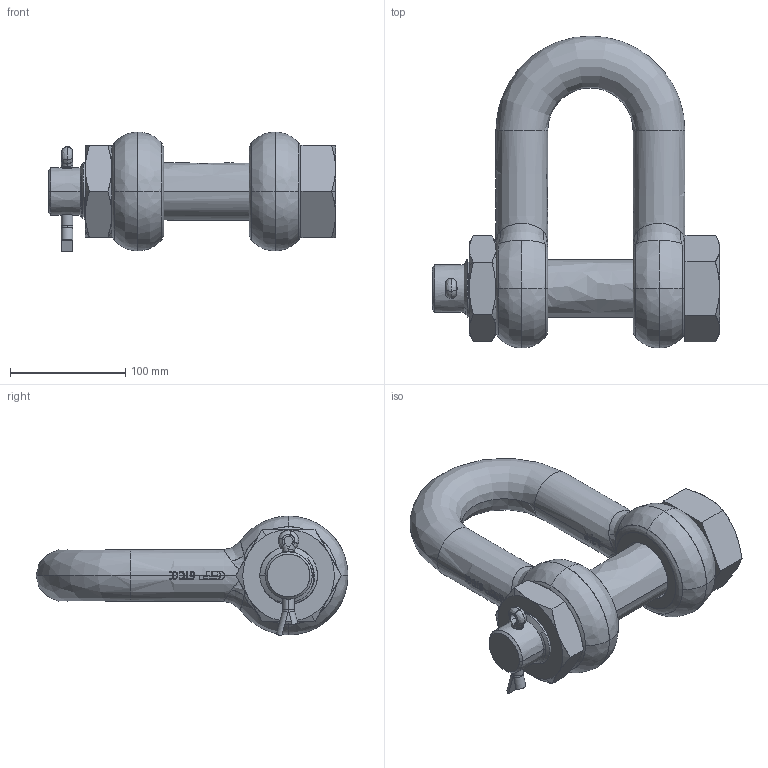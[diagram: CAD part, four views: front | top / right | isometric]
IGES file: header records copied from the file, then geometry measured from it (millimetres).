
Start section: START RECORD GO HERE.
Global section: file name: 25.igs; native system: Solidworks 2009      A Version 5 Release 17 ; preprocessor: Solidworks                 ; author: v.b.; organization: P4; date: 20090807.084037; units: millimetre
Bounding box: 249 x 270.5 x 103.87 mm (x, y, z)
Surface area: 186165.6 mm2 (no closed solid volume)
Topology: 0 solids, 0 shells, 812 faces, 5285 edges, 5277 vertices
Faces by surface type: bspline 338, plane 309, revolution 165
